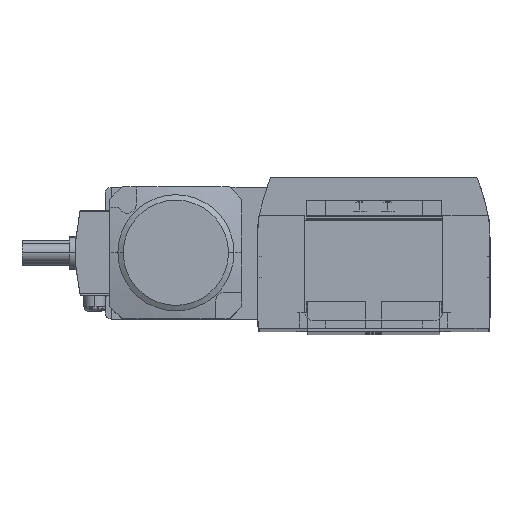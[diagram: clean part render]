
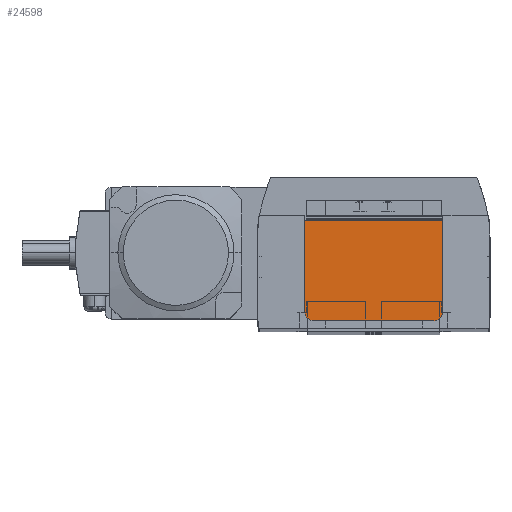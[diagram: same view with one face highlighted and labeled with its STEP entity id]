
A CAD part, top view. The second image highlights one B-rep face of the part: STEP entity #24598.
In plain terms, the highlighted planar face has unit normal (0, 0, 1).
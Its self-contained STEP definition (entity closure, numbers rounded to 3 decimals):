
#196 = DIRECTION ( 'NONE',  ( 1., 0., 0. ) ) ;
#516 = LINE ( 'NONE', #1160, #22048 ) ;
#538 = CARTESIAN_POINT ( 'NONE',  ( 19., -22.6, 618.7 ) ) ;
#698 = AXIS2_PLACEMENT_3D ( 'NONE', #15540, #6814, #3169 ) ;
#850 = ORIENTED_EDGE ( 'NONE', *, *, #12189, .T. ) ;
#1160 = CARTESIAN_POINT ( 'NONE',  ( 22., 9.4, 618.7 ) ) ;
#2154 = CARTESIAN_POINT ( 'NONE',  ( -22., -22.6, 618.7 ) ) ;
#2237 = AXIS2_PLACEMENT_3D ( 'NONE', #8807, #23411, #10891 ) ;
#2511 = CARTESIAN_POINT ( 'NONE',  ( 22., -19.6, 618.7 ) ) ;
#2944 = VERTEX_POINT ( 'NONE', #18670 ) ;
#3169 = DIRECTION ( 'NONE',  ( 1., 0., 0. ) ) ;
#3504 = CARTESIAN_POINT ( 'NONE',  ( 22., 11., 618.7 ) ) ;
#3881 = ORIENTED_EDGE ( 'NONE', *, *, #23871, .T. ) ;
#4207 = ORIENTED_EDGE ( 'NONE', *, *, #22420, .F. ) ;
#5489 = LINE ( 'NONE', #3504, #26954 ) ;
#6404 = ORIENTED_EDGE ( 'NONE', *, *, #21237, .T. ) ;
#6814 = DIRECTION ( 'NONE',  ( 0., 0., 1. ) ) ;
#7330 = CARTESIAN_POINT ( 'NONE',  ( -22., -19.6, 618.7 ) ) ;
#8807 = CARTESIAN_POINT ( 'NONE',  ( 19., -19.6, 618.7 ) ) ;
#8845 = DIRECTION ( 'NONE',  ( 1., 0., 0. ) ) ;
#9403 = EDGE_CURVE ( 'NONE', #2944, #15978, #19609, .T. ) ;
#9431 = AXIS2_PLACEMENT_3D ( 'NONE', #11007, #20400, #14896 ) ;
#10488 = DIRECTION ( 'NONE',  ( 0., 1., 0. ) ) ;
#10551 = VERTEX_POINT ( 'NONE', #18661 ) ;
#10692 = VERTEX_POINT ( 'NONE', #11951 ) ;
#10891 = DIRECTION ( 'NONE',  ( 1., 0., 0. ) ) ;
#11007 = CARTESIAN_POINT ( 'NONE',  ( -19., -19.6, 618.7 ) ) ;
#11082 = CARTESIAN_POINT ( 'NONE',  ( -22., 11., 618.7 ) ) ;
#11808 = FACE_OUTER_BOUND ( 'NONE', #17352, .T. ) ;
#11951 = CARTESIAN_POINT ( 'NONE',  ( -22., 9.4, 618.7 ) ) ;
#12189 = EDGE_CURVE ( 'NONE', #20081, #10551, #5489, .T. ) ;
#14158 = CIRCLE ( 'NONE', #2237, 3. ) ;
#14877 = DIRECTION ( 'NONE',  ( 0., -1., 0. ) ) ;
#14896 = DIRECTION ( 'NONE',  ( 1., 0., 0. ) ) ;
#15540 = CARTESIAN_POINT ( 'NONE',  ( -22., -22.6, 618.7 ) ) ;
#15978 = VERTEX_POINT ( 'NONE', #538 ) ;
#16510 = EDGE_CURVE ( 'NONE', #19548, #2944, #16986, .T. ) ;
#16986 = CIRCLE ( 'NONE', #9431, 3. ) ;
#17352 = EDGE_LOOP ( 'NONE', ( #24866, #3881, #850, #4207, #6404, #18153 ) ) ;
#17541 = LINE ( 'NONE', #11082, #22430 ) ;
#18153 = ORIENTED_EDGE ( 'NONE', *, *, #16510, .T. ) ;
#18661 = CARTESIAN_POINT ( 'NONE',  ( 22., 9.4, 618.7 ) ) ;
#18670 = CARTESIAN_POINT ( 'NONE',  ( -19., -22.6, 618.7 ) ) ;
#19262 = PLANE ( 'NONE',  #698 ) ;
#19548 = VERTEX_POINT ( 'NONE', #7330 ) ;
#19609 = LINE ( 'NONE', #2154, #25131 ) ;
#20081 = VERTEX_POINT ( 'NONE', #2511 ) ;
#20400 = DIRECTION ( 'NONE',  ( 0., 0., 1. ) ) ;
#21237 = EDGE_CURVE ( 'NONE', #10692, #19548, #17541, .T. ) ;
#22048 = VECTOR ( 'NONE', #8845, 1000. ) ;
#22420 = EDGE_CURVE ( 'NONE', #10692, #10551, #516, .T. ) ;
#22430 = VECTOR ( 'NONE', #14877, 1000. ) ;
#23411 = DIRECTION ( 'NONE',  ( 0., 0., 1. ) ) ;
#23871 = EDGE_CURVE ( 'NONE', #15978, #20081, #14158, .T. ) ;
#24598 = ADVANCED_FACE ( 'NONE', ( #11808 ), #19262, .T. ) ;
#24866 = ORIENTED_EDGE ( 'NONE', *, *, #9403, .T. ) ;
#25131 = VECTOR ( 'NONE', #196, 1000. ) ;
#26954 = VECTOR ( 'NONE', #10488, 1000. ) ;
